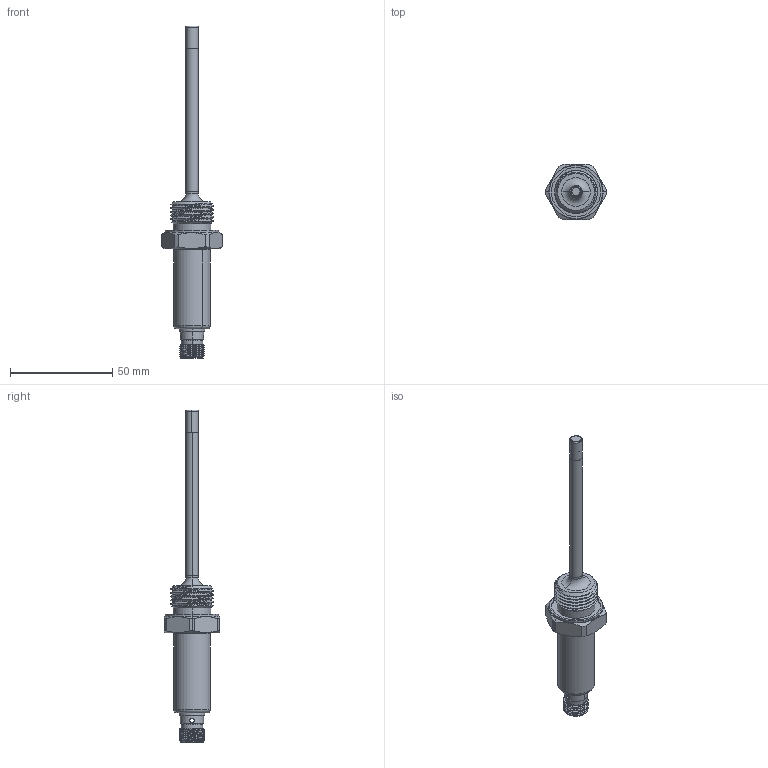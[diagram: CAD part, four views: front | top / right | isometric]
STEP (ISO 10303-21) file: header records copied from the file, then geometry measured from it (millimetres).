
FILE_DESCRIPTION (( 'STEP AP203' ), '1' );
FILE_NAME ('4分外牙TA温度L100装配体.STEP', '2026-03-03T08:28:30', ( '' ), ( '' ), 'SwSTEP 2.0', 'SolidWorks 2022', '' );
FILE_SCHEMA (( 'CONFIG_CONTROL_DESIGN' ));
Length unit declared in the file: millimetre
Products named in the file (6): 4分外牙TA温度L100装配体; 瑤脣釱褲; G4煦假蚾諉芛; 抻芛晊酗奪75; 抻芛奪酗僅11; 褲极
Assembly tree (5 placements, depth 2):
  4分外牙TA温度L100装配体
    G4煦假蚾諉芛
    瑤脣釱褲
    褲极
    抻芛奪酗僅11
    抻芛晊酗奪75
Bounding box: 30 x 27 x 162.4 mm (x, y, z)
Volume: 10981.6 mm3; surface area: 12784.2 mm2
Topology: 5 solids, 5 shells, 153 faces, 353 edges, 226 vertices
Faces by surface type: cylinder 83, plane 35, cone 15, torus 14, bspline 6
Entity records: 9057 total; most frequent: CARTESIAN_POINT 5028, DIRECTION 729, ORIENTED_EDGE 706, EDGE_CURVE 353, AXIS2_PLACEMENT_3D 311, VERTEX_POINT 226, EDGE_LOOP 181, CIRCLE 156
